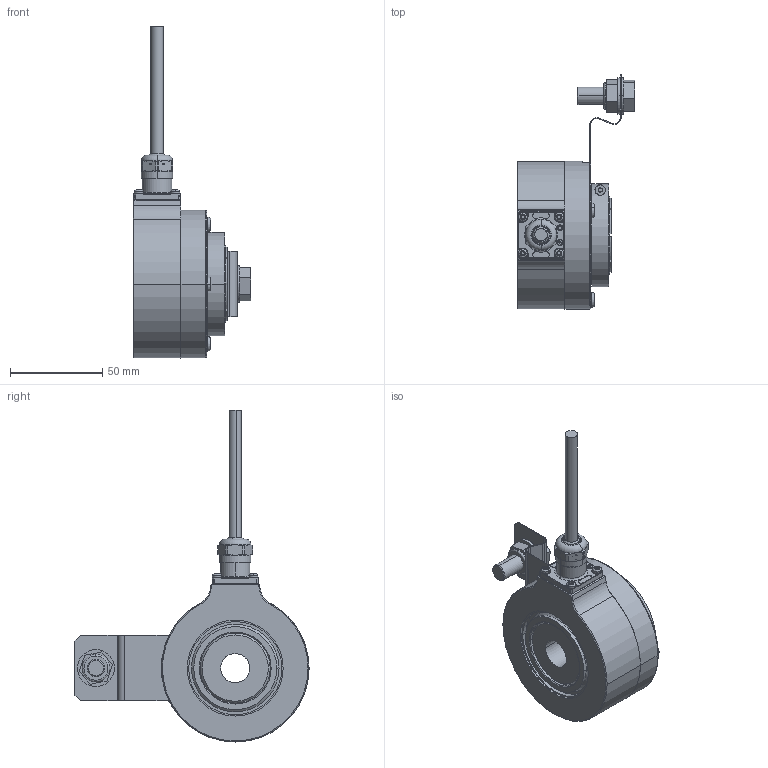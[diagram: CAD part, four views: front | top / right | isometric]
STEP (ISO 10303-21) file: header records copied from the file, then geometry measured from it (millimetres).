
FILE_DESCRIPTION (( 'STEP AP203' ), '1' );
FILE_NAME ('K80I.OXX.XXXXX.XH2484A.6XR11.XXXX.step', '2025-12-09T10:41:35', ( '' ), ( '' ), 'SwSTEP 2.0', 'SolidWorks 2021', '' );
FILE_SCHEMA (( 'CONFIG_CONTROL_DESIGN' ));
Length unit declared in the file: millimetre
Products named in the file (1): K80I.OXX.XXXXX.XH2484A.6XR11.XXXX
Bounding box: 63.95 x 127.03 x 180.07 mm (x, y, z)
Volume: 227221.2 mm3; surface area: 85986.4 mm2
Topology: 11 solids, 13 shells, 871 faces, 2239 edges, 1425 vertices
Faces by surface type: cylinder 396, plane 298, cone 70, bspline 46, torus 45, sphere 16
Entity records: 29689 total; most frequent: CARTESIAN_POINT 8206, DIRECTION 4620, ORIENTED_EDGE 4462, EDGE_CURVE 2231, AXIS2_PLACEMENT_3D 1797, VERTEX_POINT 1425, LINE 1026, VECTOR 1026
